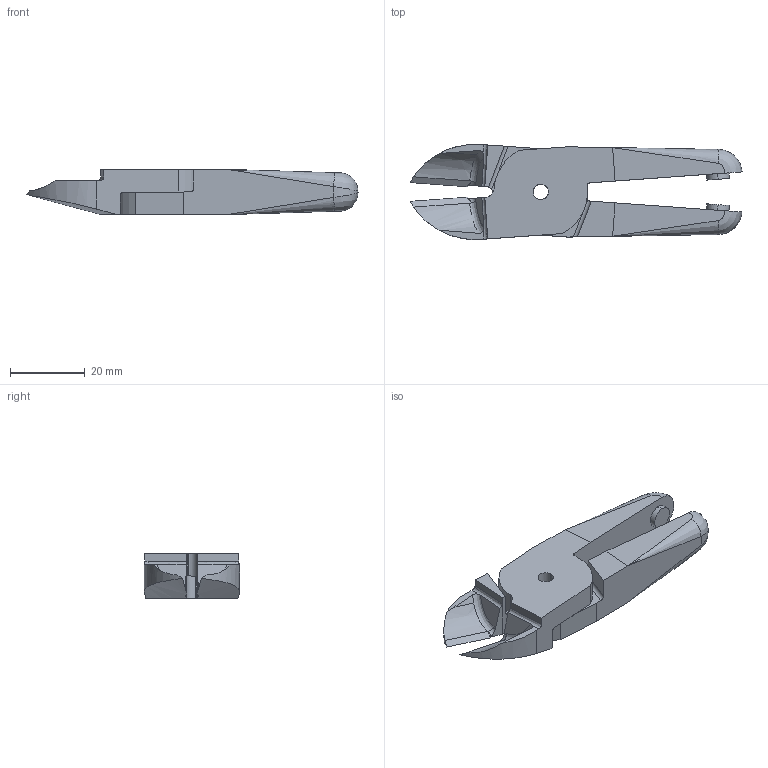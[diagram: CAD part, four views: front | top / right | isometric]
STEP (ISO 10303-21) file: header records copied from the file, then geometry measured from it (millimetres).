
FILE_DESCRIPTION (( 'STEP AP214' ), '1' );
FILE_NAME ('N10LAP.STEP', '2019-11-29T03:30:45', ( '微软用户' ), ( '微软中国' ), 'SwSTEP 2.0', 'SolidWorks 2016', '' );
FILE_SCHEMA (( 'AUTOMOTIVE_DESIGN' ));
Length unit declared in the file: millimetre
Products named in the file (3): N10LAP-02; N10LAP-01; N10LAP
Assembly tree (2 placements, depth 2):
  N10LAP
    N10LAP-01
    N10LAP-02
Bounding box: 88.67 x 25.39 x 12 mm (x, y, z)
Volume: 15008.5 mm3; surface area: 7695.7 mm2
Topology: 2 solids, 2 shells, 87 faces, 247 edges, 162 vertices
Faces by surface type: plane 40, cylinder 30, bspline 17
Entity records: 5262 total; most frequent: CARTESIAN_POINT 3205, ORIENTED_EDGE 478, DIRECTION 304, EDGE_CURVE 239, VERTEX_POINT 160, LINE 110, VECTOR 110, B_SPLINE_CURVE_WITH_KNOTS 97
